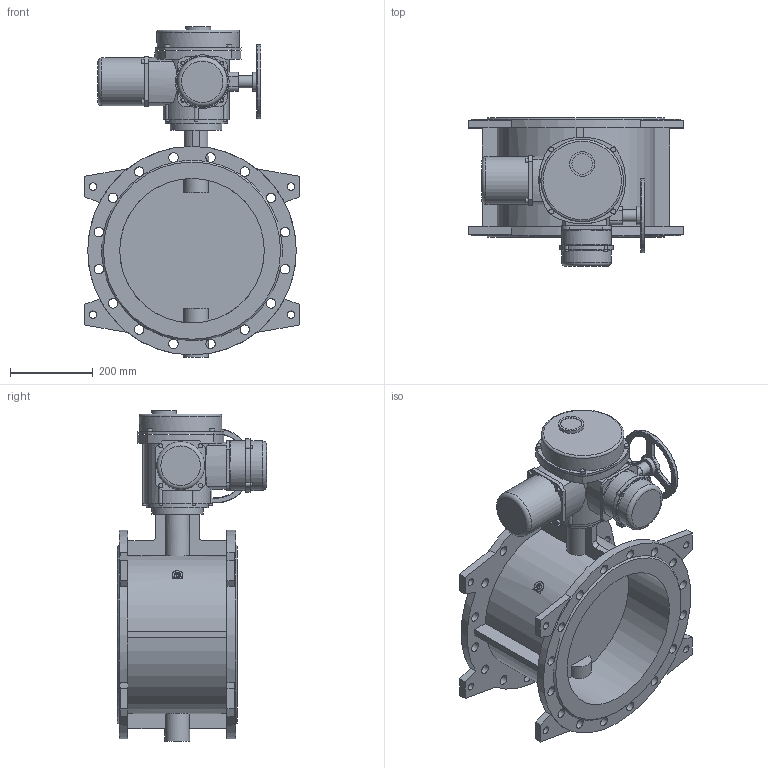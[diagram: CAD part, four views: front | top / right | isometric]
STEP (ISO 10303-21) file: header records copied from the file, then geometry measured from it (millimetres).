
FILE_DESCRIPTION(('STEP AP203'), '1');
FILE_NAME('青蜮铕 023F.Z DN350 PN10_菹_QT.Z060-120', '', ('UNSPECIFIED'), ('UNSPECIFIED'), 'ASCON STEP Converter 1.6', 'ASCON Math Kernel', '');
FILE_SCHEMA(('CONFIG_CONTROL_DESIGN'));
Length unit declared in the file: millimetre
Bounding box: 520 x 361 x 800 mm (x, y, z)
Volume: 23335883.2 mm3; surface area: 1863707.3 mm2
Topology: 1 solids, 1 shells, 399 faces, 1071 edges, 666 vertices
Faces by surface type: cylinder 183, plane 143, torus 47, cone 18, bspline 8
Full cylindrical faces by diameter (mm): 8 x10, 8.376 x4, 10 x4, 10.106 x4, 12 x8, 12.386 x1, 18 x8, 23 x32, 30 x1, 45 x1, 50 x1, 60 x2, 116 x1, 120 x2, 125 x1, 150 x1, 180 x1, 200 x1, 350 x2, 505 x2
Entity records: 18326 total; most frequent: CARTESIAN_POINT 5183, DIRECTION 2197, ORIENTED_EDGE 1866, EDGE_CURVE 933, AXIS2_PLACEMENT_3D 929, VERTEX_POINT 653, EDGE_LOOP 633, CIRCLE 537
